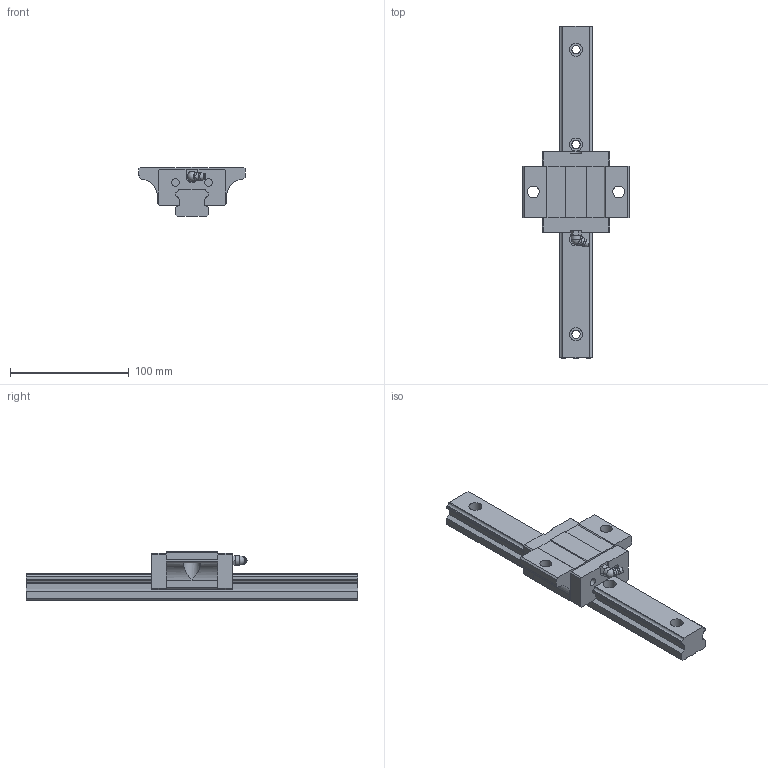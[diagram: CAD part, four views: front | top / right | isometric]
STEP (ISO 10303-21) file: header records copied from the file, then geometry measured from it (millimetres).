
FILE_DESCRIPTION(/* description */ (''),/* implementation_level */ '2;1');
FILE_NAME(/* name */ 'MSB30TE',/* time_stamp */ '2004-05-24T09:18:22+08:00',/* author */ (''),/* organization */ (''),/* preprocessor_version */ 'ST-DEVELOPER v8',/* originating_system */ '',/* authorisation */ '');
FILE_SCHEMA (('CONFIG_CONTROL_DESIGN'));
Length unit declared in the file: millimetre
Products named in the file (1): zirc812C000f
Bounding box: 90 x 280 x 42 mm (x, y, z)
Volume: 269185.3 mm3; surface area: 55622 mm2
Topology: 3 solids, 3 shells, 185 faces, 509 edges, 336 vertices
Faces by surface type: plane 141, cylinder 33, torus 7, sphere 2, cone 1, bspline 1
Full cylindrical faces by diameter (mm): 6.5 x6, 7 x4, 8 x1, 10 x2, 11 x4
Entity records: 5875 total; most frequent: CARTESIAN_POINT 1154, ORIENTED_EDGE 954, DIRECTION 934, EDGE_CURVE 477, LINE 346, VECTOR 346, VERTEX_POINT 326, AXIS2_PLACEMENT_3D 294
